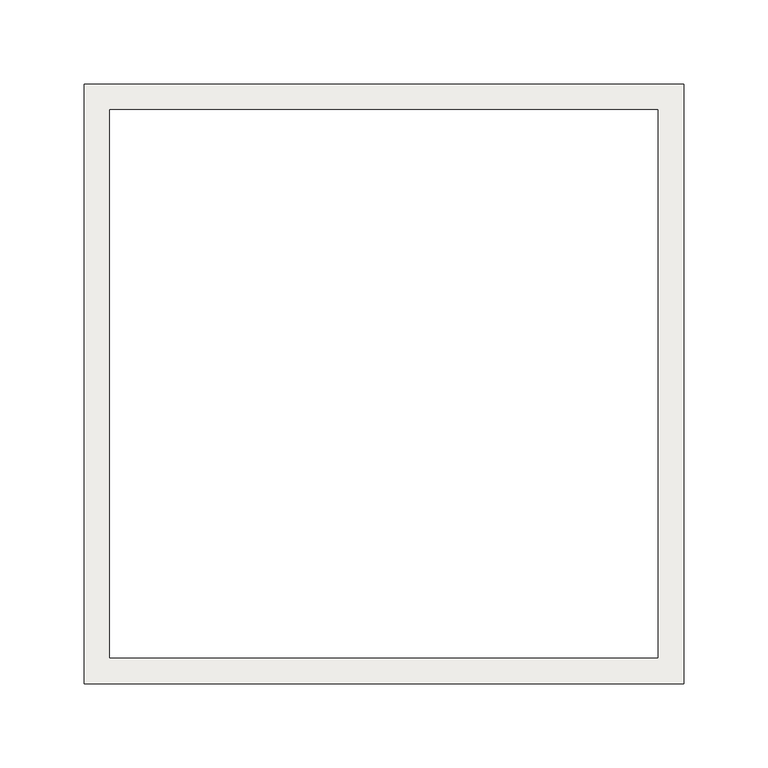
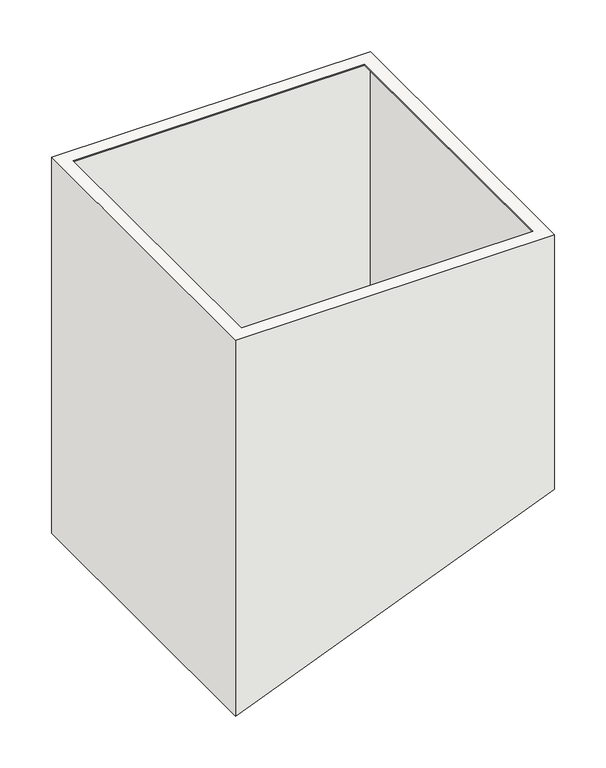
"""IFC4 building model written with IfcOpenShell, lengths in millimetres: covering geometry, MG_BPC_Mini Delta_mountingbox_M&G : mountingbox Mini-Delta."""

from ifc_helpers import new_model, si_unit, origin, place, context, project, spatial, faceted_brep, source, transform, mapped, element, save


def covering_dce8d64e(model_context):
    return source(origin(), model_context, "Body", "Brep", [
        faceted_brep([(355.5, -177.75, 0.0), (355.5, 177.75, 0.0), (0.0, 177.75, 0.0), (0.0, -177.75, 0.0), (340.25, -162.5, 0.0), (15.25, -162.5, 0.0), (15.25, 162.5, 0.0), (340.25, 162.5, 0.0), (355.5, -177.75, -1.3), (355.5, -177.75, -300.0), (355.5, 177.75, -300.0), (355.5, 177.75, -1.3), (0.0, 177.75, -443.25), (0.0, 177.75, -1.3), (0.0, -177.75, -443.25), (0.0, -177.75, -1.3), (1.3, -176.45, -442.7261603), (1.3, 176.45, -442.7261603), (1.3, 176.45, -1.3), (1.3, -176.45, -1.3), (354.2, 176.45, -300.5238397), (354.2, 176.45, -1.3), (354.2, -176.45, -300.5238397), (354.2, -176.45, -1.3), (15.25, -162.5, -1.3), (340.25, -162.5, -1.3), (340.25, 162.5, -1.3), (15.25, 162.5, -1.3)], [[[0, 1, 2, 3], [4, 5, 6, 7]], [[1, 0, 8, 9, 10, 11]], [[2, 1, 11, 10, 12, 13]], [[3, 2, 13, 12, 14, 15]], [[0, 3, 15, 14, 9, 8]], [[16, 17, 18, 19]], [[17, 20, 21, 18]], [[20, 22, 23, 21]], [[22, 16, 19, 23]], [[10, 9, 14, 12], [17, 16, 22, 20]], [[24, 5, 4, 25]], [[25, 4, 7, 26]], [[26, 7, 6, 27]], [[5, 24, 27, 6]], [[19, 18, 21, 23], [24, 25, 26, 27]]]),
    ])


if __name__ == "__main__":
    model = new_model("IFC4")
    model_context = context("Model", 3, world=origin())
    ifc_project = project(units=[si_unit("LENGTHUNIT", "METRE", prefix="MILLI")], contexts=[model_context])
    site = spatial("IfcSite", under=ifc_project)
    building = spatial("IfcBuilding", under=site)
    placement = place(None, origin())
    covering_shape = covering_dce8d64e(model_context)
    element("IfcCovering", 1, ObjectType="MG_BPC_Mini Delta_mountingbox_M&G : mountingbox Mini-Delta", at=placement, inside=building, context=model_context, shape_type="MappedRepresentation", body=[
        mapped(covering_shape, transform((0.0, 0.0, 0.0), x_axis=(1.0, 0.0, 0.0), y_axis=(0.0, 1.0, 0.0), z_axis=(0.0, 0.0, 1.0))),
    ])
    save(model, "model.ifc")
